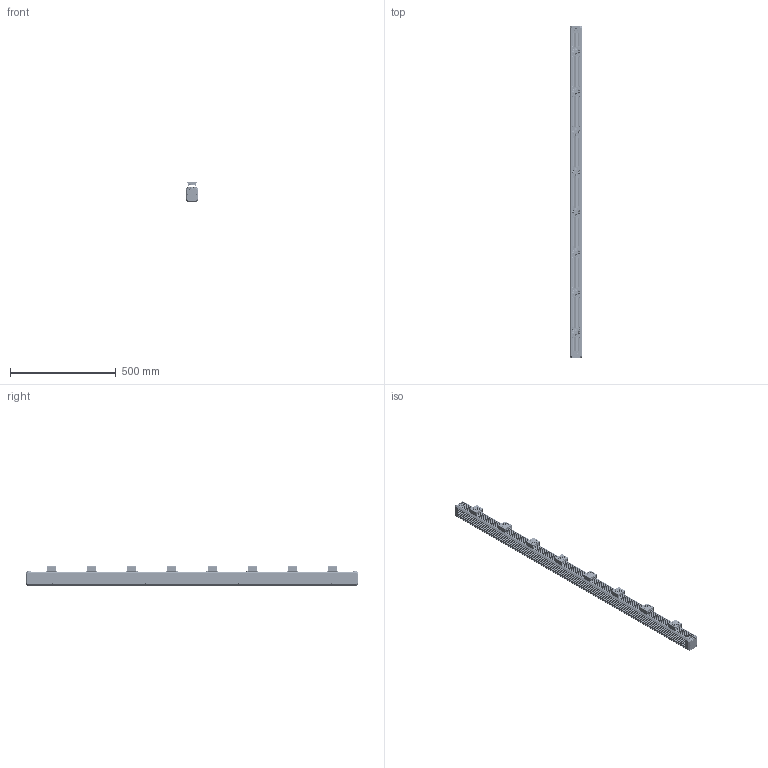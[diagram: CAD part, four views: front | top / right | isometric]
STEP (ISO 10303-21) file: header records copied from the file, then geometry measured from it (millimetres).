
FILE_DESCRIPTION((''),'2;1');
FILE_NAME('MV-LTDS-H-1500-W','2022-09-02T17:09:19',('huguozhe'),(''),'CREO PARAMETRIC BY PTC INC, 2020044','CREO PARAMETRIC BY PTC INC, 2020044','');
FILE_SCHEMA(('AUTOMOTIVE_DESIGN { 1 0 10303 214 1 1 1 1 }'));
Products named in the file (1): MV-LTDS-H-1500-W
Bounding box: 58 x 1570 x 90.6 mm (x, y, z)
Volume: 4259449.1 mm3; surface area: 1291059.8 mm2
Topology: 1 solids, 409 shells, 8213 faces, 21330 edges, 13258 vertices
Faces by surface type: plane 4011, cylinder 2808, cone 834, torus 452, bspline 108
Entity records: 301468 total; most frequent: CARTESIAN_POINT 60770, DIRECTION 44468, ORIENTED_EDGE 40636, EDGE_CURVE 20814, AXIS2_PLACEMENT_3D 17052, VERTEX_POINT 13258, VECTOR 10364, LINE 10364
